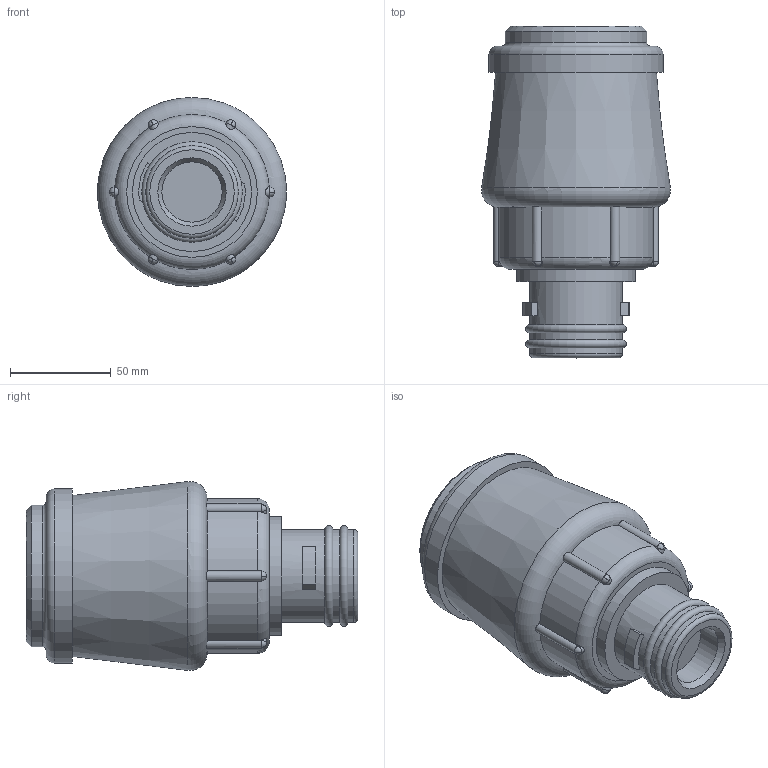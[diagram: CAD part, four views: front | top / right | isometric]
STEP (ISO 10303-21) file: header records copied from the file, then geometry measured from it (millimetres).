
FILE_DESCRIPTION(/* description */ (''),/* implementation_level */ '2;1');
FILE_NAME(/* name */ 'J:\onedrive\INVENTOR mellan skolPC och privatPC\Belos job 2022\export alla parter\6160 ZAK Snabbkoppling-instickskoppling.stp',/* time_stamp */ '2022-02-19T13:25:05+01:00',/* author */ ('erikb'),/* organization */ (''),/* preprocessor_version */ 'ST-DEVELOPER v18.1',/* originating_system */ 'Autodesk Inventor 2022',/* authorisation */ '');
FILE_SCHEMA (('CONFIG_CONTROL_DESIGN'));
Length unit declared in the file: millimetre
Products named in the file (1): 6160 ZAK Snabbkoppling-instickskoppling
Bounding box: 93.98 x 165 x 93.98 mm (x, y, z)
Volume: 655660.6 mm3; surface area: 57982.4 mm2
Topology: 1 solids, 1 shells, 82 faces, 202 edges, 132 vertices
Faces by surface type: cylinder 30, plane 30, sphere 12, torus 7, cone 3
Full cylindrical faces by diameter (mm): 30 x1, 46 x3, 58.2 x2, 59.2 x1, 60.2 x1, 70.2 x1, 86.6 x1
Entity records: 2792 total; most frequent: CARTESIAN_POINT 793, DIRECTION 409, ORIENTED_EDGE 404, EDGE_CURVE 202, AXIS2_PLACEMENT_3D 172, VERTEX_POINT 132, EDGE_LOOP 92, CIRCLE 89
